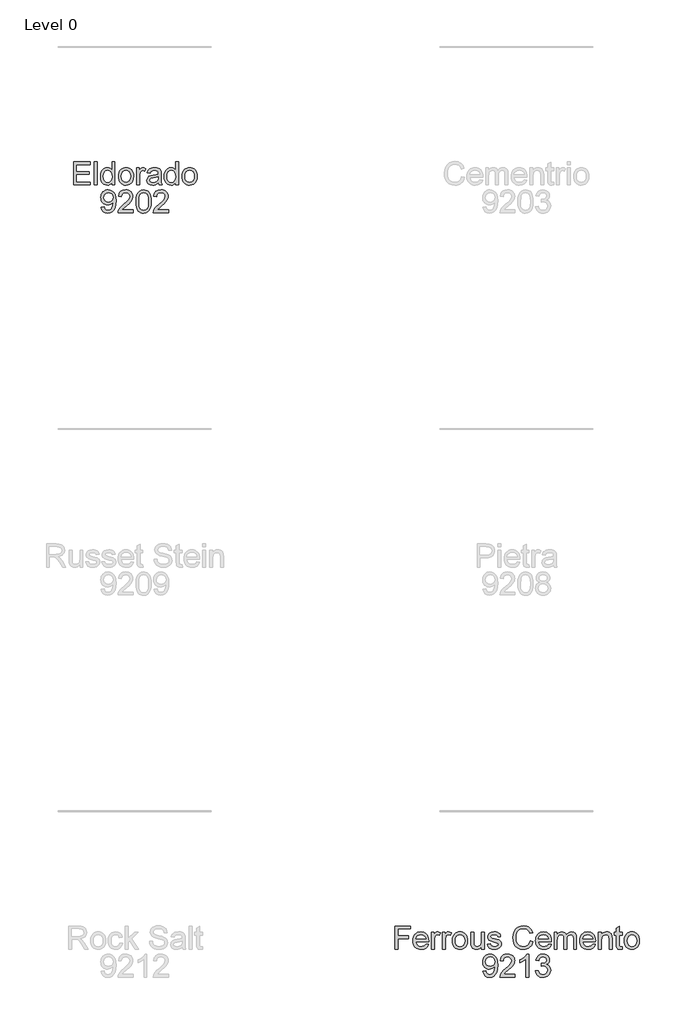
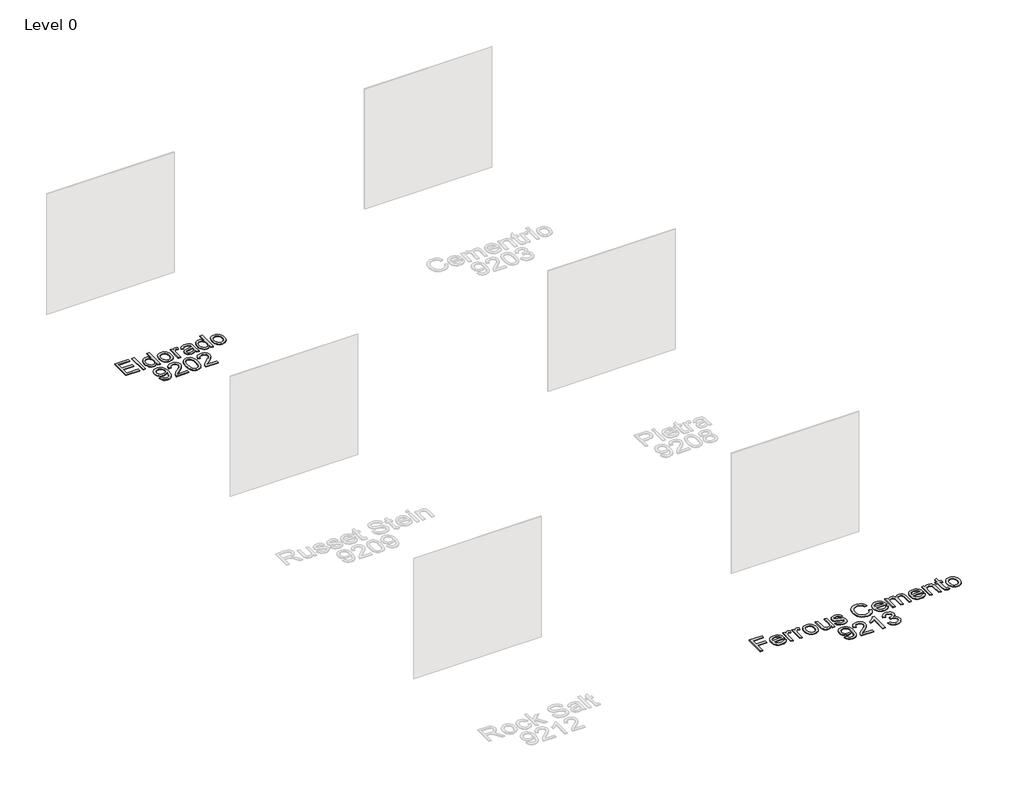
# One storey, part 4 of 8: 2 proxies.
"""IFC4 building model written with IfcOpenShell, lengths in millimetres."""

from ifc_helpers import new_model, si_unit, origin, origin_with_axes, place, context, project, spatial, polyline, outline, extrude, element, save

model = new_model("IFC4")

# Units and contexts
model_context = context("Model", 3, world=origin())
ifc_project = project(units=[si_unit("LENGTHUNIT", "METRE", prefix="MILLI")], contexts=[model_context])

# Site, building, storey
site = spatial("IfcSite", under=ifc_project)
building = spatial("IfcBuilding", under=site)
storey = spatial("IfcBuildingStorey", under=building, Name="Level 0", Elevation=0.0)

# Proxies
placement = place(None, origin())
element("IfcBuildingElementProxy", 1, Name="300mm Arial", ObjectType="300mm Arial", at=placement, inside=storey, context=model_context, shape_type="SweptSolid", body=[
    extrude(outline(polyline([(-5251.1692778, -7002.860494), (-5251.1692778, -6701.4915635), (-5034.5603591, -6701.4915635), (-5034.5603591, -6739.1626798), (-5213.4981615, -6739.1626798), (-5213.4981615, -6828.6315811), (-5043.9781381, -6828.6315811), (-5043.9781381, -6866.3026974), (-5213.4981615, -6866.3026974), (-5213.4981615, -6965.1893777), (-5029.8514695, -6965.1893777), (-5029.8514695, -7002.860494), (-5251.1692778, -7002.860494)])), origin_with_axes(), (0.0, 0.0, 1.0), 10.0),
    extrude(outline(polyline([(-4978.0536846, -7002.860494), (-4978.0536846, -6701.4915635), (-4940.3825683, -6701.4915635), (-4940.3825683, -7002.860494), (-4978.0536846, -7002.860494)])), origin_with_axes(), (0.0, 0.0, 1.0), 10.0),
    extrude(outline(polyline([(-4747.3180972, -7002.860494), (-4747.3180972, -6967.3230932), (-4758.5890818, -6984.9308452), (-4772.2421024, -6997.507811), (-4788.2771589, -7005.0539904), (-4806.6942512, -7007.5693835), (-4831.0480393, -7003.9273518), (-4853.3416882, -6993.0012565), (-4872.2140346, -6975.5544529), (-4886.303915, -6952.350296), (-4895.0779006, -6924.3268851), (-4898.0025624, -6892.422319), (-4895.3078268, -6860.9132261), (-4887.22362, -6832.4575538), (-4873.759139, -6808.6739828), (-4854.9235808, -6791.181194), (-4832.1424883, -6780.4206456), (-4806.841404, -6776.8337961), (-4788.4105161, -6779.3997731), (-4772.1133437, -6787.0977038), (-4758.2993748, -6798.8975188), (-4747.3180972, -6813.7691485), (-4747.3180972, -6701.4915635), (-4709.6469809, -6701.4915635), (-4709.6469809, -7002.860494), (-4747.3180972, -7002.860494)]), holes=[polyline([(-4860.3314461, -6892.2751662), (-4856.0824091, -6926.350236), (-4843.335298, -6950.5844625), (-4824.8124395, -6965.069816), (-4803.2361605, -6969.8982672), (-4781.6690785, -6965.2905452), (-4763.6152696, -6951.4673793), (-4751.3923903, -6928.1712519), (-4747.3180972, -6895.1446458), (-4751.4659667, -6859.037028), (-4763.9095752, -6834.0026582), (-4782.4232366, -6819.3793489), (-4804.7812649, -6814.5049125), (-4826.5782731, -6819.1862108), (-4844.4389439, -6833.230106), (-4856.3583206, -6857.3539678), (-4860.3314461, -6892.2751662)])]), origin_with_axes(), (0.0, 0.0, 1.0), 10.0),
    extrude(outline(polyline([(-4662.5580855, -6892.2015898), (-4660.520939, -6863.5389839), (-4654.4094993, -6838.8403064), (-4644.2237666, -6818.1055575), (-4629.9637408, -6801.334737), (-4615.6071459, -6790.6155754), (-4599.760629, -6782.9590314), (-4582.4241899, -6778.3651049), (-4563.5978288, -6776.8337961), (-4542.8147954, -6778.698498), (-4524.0229232, -6784.2926036), (-4507.2222123, -6793.6161129), (-4492.4126628, -6806.669026), (-4480.32544, -6823.0098843), (-4471.6917094, -6842.1972296), (-4466.511471, -6864.2310619), (-4464.7847249, -6889.1113811), (-4467.8381455, -6927.1687735), (-4476.9984072, -6956.1394806), (-4491.9987955, -6977.8353213), (-4512.5725961, -6994.0681143), (-4537.0091576, -7004.1940662), (-4563.5978288, -7007.5693835), (-4584.6843649, -7005.7115794), (-4603.6509811, -7000.1381672), (-4620.4976772, -6990.8491468), (-4635.2244533, -6977.8445183), (-4647.1829174, -6961.3450108), (-4655.7246775, -6941.5713536), (-4660.8497335, -6918.5235466), (-4662.5580855, -6892.2015898)]), holes=[polyline([(-4624.8869692, -6892.1280134), (-4620.5275676, -6926.2214773), (-4607.4493627, -6950.5108861), (-4587.7676759, -6965.0514219), (-4563.5978288, -6969.8982672), (-4539.5383463, -6965.0238308), (-4519.8934478, -6950.4005215), (-4506.8152429, -6925.789216), (-4502.4558412, -6890.950791), (-4506.842834, -6857.8506085), (-4520.0038124, -6833.8922936), (-4539.6763021, -6819.3517577), (-4563.5978288, -6814.5049125), (-4587.7676759, -6819.3333636), (-4607.4493627, -6833.8187172), (-4620.5275676, -6858.0529436), (-4624.8869692, -6892.1280134)])]), origin_with_axes(), (0.0, 0.0, 1.0), 10.0),
    extrude(outline(polyline([(-4422.4047191, -7002.860494), (-4422.4047191, -6781.5426857), (-4389.4424923, -6781.5426857), (-4389.4424923, -6814.2841833), (-4377.2655983, -6795.3014723), (-4366.0451974, -6784.1178596), (-4354.7880084, -6778.654812), (-4342.5007497, -6776.8337961), (-4323.738768, -6779.7400639), (-4304.6824806, -6788.4588672), (-4317.2640449, -6822.2304343), (-4330.5077967, -6816.4362929), (-4343.7515485, -6814.5049125), (-4354.9995405, -6816.3627165), (-4365.051916, -6821.9361288), (-4373.1729111, -6830.8020848), (-4378.6267617, -6842.5375205), (-4383.2068925, -6863.5803706), (-4384.7336028, -6886.5362071), (-4384.7336028, -7002.860494), (-4422.4047191, -7002.860494)])), origin_with_axes(), (0.0, 0.0, 1.0), 10.0),
    extrude(outline(polyline([(-4139.8713468, -6974.6071568), (-4157.8699734, -6990.0398064), (-4176.4020289, -7000.1381672), (-4195.8905776, -7005.7115794), (-4216.7586838, -7007.5693835), (-4248.2401855, -7003.0996173), (-4271.4627365, -6989.6903186), (-4285.7825431, -6969.3280501), (-4290.555812, -6943.9993748), (-4288.7531902, -6928.3827841), (-4283.3453249, -6914.2009331), (-4275.0036007, -6902.0608273), (-4264.3994021, -6892.5694718), (-4238.0222631, -6880.2086368), (-4205.4279183, -6874.5432541), (-4166.9106734, -6868.5835657), (-4140.092076, -6861.5938078), (-4139.8713468, -6853.2060983), (-4142.4649148, -6836.3938912), (-4150.245619, -6825.3942195), (-4167.6464374, -6817.2272392), (-4191.8898609, -6814.5049125), (-4214.3306626, -6816.3167313), (-4230.0024356, -6821.7521878), (-4240.6894076, -6831.8045633), (-4248.1758062, -6847.4671392), (-4285.8469225, -6842.7582497), (-4279.30782, -6822.156858), (-4269.5497501, -6805.9700502), (-4255.6622048, -6793.590821), (-4236.7346761, -6784.4121652), (-4213.5857016, -6778.7283884), (-4187.0338186, -6776.8337961), (-4161.5671874, -6778.5076592), (-4141.379663, -6783.5292485), (-4126.1585454, -6791.0800264), (-4115.5911351, -6800.3414556), (-4108.5829831, -6811.7917827), (-4104.0396405, -6825.9092543), (-4102.2002305, -6858.8714811), (-4102.2002305, -6905.7396473), (-4100.2872441, -6971.1858542), (-4092.7824514, -7002.860494), (-4130.4535677, -7002.860494), (-4139.8713468, -6974.6071568)]), holes=[polyline([(-4139.8713468, -6899.2649241), (-4200.6454524, -6910.8164188), (-4233.0558562, -6916.9232599), (-4247.7343478, -6926.8560738), (-4252.8846957, -6941.3506244), (-4250.0795955, -6952.5526311), (-4241.6642948, -6961.7312869), (-4227.8227348, -6967.8565221), (-4208.7388563, -6969.8982672), (-4188.5053465, -6967.64499), (-4170.6262816, -6960.8851583), (-4156.131731, -6950.9247533), (-4146.0517643, -6939.069756), (-4141.5819981, -6926.8560738), (-4140.092076, -6909.933502), (-4139.8713468, -6899.2649241)])]), origin_with_axes(), (0.0, 0.0, 1.0), 10.0),
    extrude(outline(polyline([(-3913.8446489, -7002.860494), (-3913.8446489, -6967.3230932), (-3925.1156336, -6984.9308452), (-3938.7686541, -6997.507811), (-3954.8037106, -7005.0539904), (-3973.220803, -7007.5693835), (-3997.574591, -7003.9273518), (-4019.86824, -6993.0012565), (-4038.7405863, -6975.5544529), (-4052.8304667, -6952.350296), (-4061.6044523, -6924.3268851), (-4064.5291142, -6892.422319), (-4061.8343786, -6860.9132261), (-4053.7501717, -6832.4575538), (-4040.2856907, -6808.6739828), (-4021.4501325, -6791.181194), (-3998.66904, -6780.4206456), (-3973.3679558, -6776.8337961), (-3954.9370678, -6779.3997731), (-3938.6398954, -6787.0977038), (-3924.8259265, -6798.8975188), (-3913.8446489, -6813.7691485), (-3913.8446489, -6701.4915635), (-3876.1735326, -6701.4915635), (-3876.1735326, -7002.860494), (-3913.8446489, -7002.860494)]), holes=[polyline([(-4026.8579979, -6892.2751662), (-4022.6089608, -6926.350236), (-4009.8618497, -6950.5844625), (-3991.3389912, -6965.069816), (-3969.7627122, -6969.8982672), (-3948.1956302, -6965.2905452), (-3930.1418213, -6951.4673793), (-3917.918942, -6928.1712519), (-3913.8446489, -6895.1446458), (-3917.9925184, -6859.037028), (-3930.4361269, -6834.0026582), (-3948.9497883, -6819.3793489), (-3971.3078166, -6814.5049125), (-3993.1048248, -6819.1862108), (-4010.9654957, -6833.230106), (-4022.8848723, -6857.3539678), (-4026.8579979, -6892.2751662)])]), origin_with_axes(), (0.0, 0.0, 1.0), 10.0),
    extrude(outline(polyline([(-3829.0846373, -6892.2015898), (-3827.0474907, -6863.5389839), (-3820.9360511, -6838.8403064), (-3810.7503183, -6818.1055575), (-3796.4902925, -6801.334737), (-3782.1336976, -6790.6155754), (-3766.2871807, -6782.9590314), (-3748.9507417, -6778.3651049), (-3730.1243806, -6776.8337961), (-3709.3413471, -6778.698498), (-3690.5494749, -6784.2926036), (-3673.7487641, -6793.6161129), (-3658.9392145, -6806.669026), (-3646.8519917, -6823.0098843), (-3638.2182611, -6842.1972296), (-3633.0380228, -6864.2310619), (-3631.3112766, -6889.1113811), (-3634.3646972, -6927.1687735), (-3643.5249589, -6956.1394806), (-3658.5253472, -6977.8353213), (-3679.0991478, -6994.0681143), (-3703.5357094, -7004.1940662), (-3730.1243806, -7007.5693835), (-3751.2109167, -7005.7115794), (-3770.1775328, -7000.1381672), (-3787.0242289, -6990.8491468), (-3801.751005, -6977.8445183), (-3813.7094691, -6961.3450108), (-3822.2512292, -6941.5713536), (-3827.3762852, -6918.5235466), (-3829.0846373, -6892.2015898)]), holes=[polyline([(-3791.413521, -6892.1280134), (-3787.0541193, -6926.2214773), (-3773.9759144, -6950.5108861), (-3754.2942276, -6965.0514219), (-3730.1243806, -6969.8982672), (-3706.0648981, -6965.0238308), (-3686.4199995, -6950.4005215), (-3673.3417946, -6925.789216), (-3668.982393, -6890.950791), (-3673.3693857, -6857.8506085), (-3686.5303641, -6833.8922936), (-3706.2028538, -6819.3517577), (-3730.1243806, -6814.5049125), (-3754.2942276, -6819.3333636), (-3773.9759144, -6833.8187172), (-3787.0541193, -6858.0529436), (-3791.413521, -6892.1280134)])]), origin_with_axes(), (0.0, 0.0, 1.0), 10.0),
    extrude(outline(polyline([(-4888.5847834, -7293.4427149), (-4850.9136671, -7288.7338254), (-4844.4757321, -7310.1169663), (-4833.9910953, -7324.6758963), (-4819.7172739, -7333.0360146), (-4801.9117853, -7335.8227207), (-4785.9365097, -7334.029296), (-4771.4143679, -7328.6490218), (-4759.3478385, -7320.2705094), (-4750.7393998, -7309.4823699), (-4738.4153529, -7276.7408723), (-4732.9706994, -7233.0364913), (-4733.1914286, -7225.6788514), (-4746.2420424, -7241.6081418), (-4763.320964, -7254.2264942), (-4783.1957888, -7262.4486568), (-4804.6341121, -7265.1893777), (-4822.5292719, -7263.5155146), (-4838.9850934, -7258.4939254), (-4854.0015766, -7250.12461), (-4867.5787214, -7238.4075684), (-4878.8290127, -7223.9544045), (-4886.864935, -7207.3767221), (-4891.6864884, -7188.6745212), (-4893.2936729, -7167.8478018), (-4891.6083135, -7146.326705), (-4886.5522353, -7127.0129003), (-4878.1254384, -7109.9063875), (-4866.3279227, -7095.0071667), (-4851.9920212, -7082.9360387), (-4835.9500669, -7074.3138045), (-4818.2020599, -7069.1404639), (-4798.7480001, -7067.4160171), (-4770.6510128, -7071.3523544), (-4745.074017, -7083.1613665), (-4723.681679, -7102.254442), (-4708.1386647, -7128.0429699), (-4698.6749004, -7163.6907352), (-4695.5203123, -7212.3615232), (-4698.6657034, -7263.96617), (-4708.1018765, -7303.8537754), (-4723.7460584, -7333.8269609), (-4745.5154754, -7355.6883485), (-4772.4720286, -7369.0424649), (-4803.6776189, -7373.4938371), (-4835.8856876, -7368.2423216), (-4861.5822449, -7352.4877751), (-4879.5532804, -7327.2234791), (-4888.5847834, -7293.4427149)]), holes=[polyline([(-4733.1914286, -7166.964885), (-4737.2565246, -7141.4338745), (-4749.4518128, -7121.788976), (-4768.3793414, -7109.262594), (-4792.641159, -7105.0871334), (-4817.8042875, -7109.5844908), (-4837.9642208, -7123.0765629), (-4851.2079727, -7143.7239399), (-4855.6225566, -7169.6872117), (-4851.447096, -7192.964945), (-4838.920714, -7211.4418182), (-4819.2574214, -7223.4991506), (-4793.6712286, -7227.5182614), (-4769.6025491, -7223.4991506), (-4750.224365, -7211.4418182), (-4737.4496627, -7192.2843633), (-4733.1914286, -7166.964885)])]), origin_with_axes(), (0.0, 0.0, 1.0), 10.0),
    extrude(outline(polyline([(-4469.4936145, -7331.1138312), (-4469.4936145, -7368.7849475), (-4667.2669751, -7368.7849475), (-4663.2202731, -7342.8124787), (-4653.9312527, -7322.5145896), (-4640.338013, -7302.8237058), (-4620.6747204, -7282.213117), (-4593.1755412, -7259.156113), (-4552.5245808, -7223.0484951), (-4528.1340045, -7196.3954446), (-4515.9387164, -7174.7639833), (-4511.8736203, -7153.7211331), (-4515.7087901, -7134.8579838), (-4527.2142995, -7119.1770138), (-4544.9002264, -7108.6096035), (-4567.2766488, -7105.0871334), (-4590.7751112, -7108.52683), (-4609.0312552, -7118.84592), (-4620.8126761, -7135.2350629), (-4624.8869692, -7156.8849183), (-4662.5580855, -7152.1760288), (-4653.425415, -7115.7373171), (-4644.8790564, -7101.2013798), (-4633.6793489, -7089.1210548), (-4620.0838099, -7079.6251008), (-4604.3499568, -7072.8422765), (-4566.4673084, -7067.4160171), (-4546.2774846, -7068.9243332), (-4528.3087484, -7073.4492818), (-4512.5610998, -7080.9908627), (-4499.0345387, -7091.549076), (-4488.1705235, -7104.3421723), (-4480.4105127, -7118.5884026), (-4475.7545062, -7134.2877667), (-4474.202504, -7151.4402648), (-4475.8763671, -7169.4572855), (-4480.8979563, -7187.1616065), (-4489.8098976, -7205.1694302), (-4503.154817, -7224.0969588), (-4524.4275934, -7246.6941104), (-4557.1231057, -7275.7108027), (-4600.4596047, -7311.9471793), (-4617.4557529, -7331.1138312), (-4469.4936145, -7331.1138312)])), origin_with_axes(), (0.0, 0.0, 1.0), 10.0),
    extrude(outline(polyline([(-4431.8224982, -7220.5285035), (-4429.0541861, -7172.2899768), (-4420.7492501, -7133.8187172), (-4406.9904635, -7104.5261133), (-4387.8605997, -7083.8235541), (-4363.2217031, -7071.5179013), (-4332.9358179, -7067.4160171), (-4309.722464, -7069.8440382), (-4288.9371312, -7077.1281017), (-4271.554707, -7088.983099), (-4258.5500784, -7105.1239216), (-4248.7276292, -7125.4126136), (-4240.8917427, -7149.7112194), (-4235.7597888, -7180.5673217), (-4234.0491375, -7220.5285035), (-4236.7898584, -7268.4911186), (-4245.012021, -7306.8704077), (-4258.6880342, -7336.1906027), (-4277.7903068, -7356.9759355), (-4302.4843857, -7369.3643617), (-4332.9358179, -7373.4938371), (-4353.6843624, -7371.7004123), (-4372.0784621, -7366.3201381), (-4388.1181171, -7357.3530145), (-4401.8033273, -7344.7990414), (-4414.9367146, -7322.1053209), (-4424.3177055, -7293.828991), (-4429.9463, -7259.9700519), (-4431.8224982, -7220.5285035)]), holes=[polyline([(-4394.1513818, -7220.4549271), (-4389.7367979, -7279.7115194), (-4384.218568, -7299.9795181), (-4376.4930461, -7314.0073184), (-4356.7745711, -7330.3688702), (-4332.9358179, -7335.8227207), (-4309.0970646, -7330.3504761), (-4289.3785896, -7313.933742), (-4281.6530677, -7299.8829491), (-4276.1348378, -7279.6195489), (-4271.7202539, -7220.4549271), (-4275.987685, -7162.5319069), (-4281.3219739, -7142.3305869), (-4288.7899784, -7127.9693935), (-4308.4716652, -7110.8076984), (-4333.3772762, -7105.0871334), (-4356.9585121, -7110.1271167), (-4375.9044349, -7125.2470667), (-4383.8874742, -7140.8820515), (-4389.5896451, -7161.9616898), (-4394.1513818, -7220.4549271)])]), origin_with_axes(), (0.0, 0.0, 1.0), 10.0),
    extrude(outline(polyline([(-4008.0224397, -7331.1138312), (-4008.0224397, -7368.7849475), (-4205.7958003, -7368.7849475), (-4201.7490984, -7342.8124787), (-4192.460078, -7322.5145896), (-4178.8668383, -7302.8237058), (-4159.2035456, -7282.213117), (-4131.7043665, -7259.156113), (-4091.053406, -7223.0484951), (-4066.6628297, -7196.3954446), (-4054.4675416, -7174.7639833), (-4050.4024456, -7153.7211331), (-4054.2376154, -7134.8579838), (-4065.7431248, -7119.1770138), (-4083.4290517, -7108.6096035), (-4105.805474, -7105.0871334), (-4129.3039365, -7108.52683), (-4147.5600805, -7118.84592), (-4159.3415014, -7135.2350629), (-4163.4157945, -7156.8849183), (-4201.0869108, -7152.1760288), (-4191.9542402, -7115.7373171), (-4183.4078816, -7101.2013798), (-4172.2081742, -7089.1210548), (-4158.6126352, -7079.6251008), (-4142.8787821, -7072.8422765), (-4104.9961336, -7067.4160171), (-4084.8063099, -7068.9243332), (-4066.8375737, -7073.4492818), (-4051.089925, -7080.9908627), (-4037.5633639, -7091.549076), (-4026.6993488, -7104.3421723), (-4018.9393379, -7118.5884026), (-4014.2833314, -7134.2877667), (-4012.7313292, -7151.4402648), (-4014.4051923, -7169.4572855), (-4019.4267816, -7187.1616065), (-4028.3387229, -7205.1694302), (-4041.6836423, -7224.0969588), (-4062.9564186, -7246.6941104), (-4095.651931, -7275.7108027), (-4138.98843, -7311.9471793), (-4155.9845782, -7331.1138312), (-4008.0224397, -7331.1138312)])), origin_with_axes(), (0.0, 0.0, 1.0), 10.0),
])
element("IfcBuildingElementProxy", 2, Name="300mm Arial", ObjectType="300mm Arial", at=placement, inside=storey, context=model_context, shape_type="SweptSolid", body=[
    extrude(outline(polyline([(-1042.2627202, -17002.860494), (-1042.2627202, -16701.4915635), (-839.7804701, -16701.4915635), (-839.7804701, -16739.1626798), (-1004.5916039, -16739.1626798), (-1004.5916039, -16828.6315811), (-863.3249178, -16828.6315811), (-863.3249178, -16866.3026974), (-1004.5916039, -16866.3026974), (-1004.5916039, -17002.860494), (-1042.2627202, -17002.860494)])), origin_with_axes(), (0.0, 0.0, 1.0), 10.0),
    extrude(outline(polyline([(-637.7396783, -16936.9360404), (-600.804326, -16941.64493), (-614.1124572, -16969.4752029), (-635.3484454, -16990.2789297), (-664.0340439, -17003.2467701), (-699.6910063, -17007.5693835), (-723.0653086, -17005.7046817), (-743.8920281, -17000.1105761), (-762.1711647, -16990.7870668), (-777.9027185, -16977.7341537), (-790.5532606, -16961.3151204), (-799.5893621, -16941.8932503), (-805.011023, -16919.4685435), (-806.8182433, -16894.0409998), (-804.9926289, -16867.7512327), (-799.5157857, -16844.5792656), (-790.3877137, -16824.5250983), (-777.6084129, -16807.5887309), (-761.9182458, -16794.133447), (-744.0575749, -16784.5225298), (-724.0264003, -16778.7559796), (-701.8247219, -16776.8337961), (-680.3381141, -16778.751381), (-660.907047, -16784.5041357), (-643.5315205, -16794.0920602), (-628.2115347, -16807.5151545), (-615.7058461, -16824.4147337), (-606.7732114, -16844.4321128), (-601.4136306, -16867.5672917), (-599.6271036, -16893.8202706), (-599.8478328, -16903.9738137), (-769.147127, -16903.9738137), (-762.6264187, -16932.1719686), (-747.4788775, -16952.902119), (-725.6174899, -16965.6492302), (-698.9552423, -16969.8982672), (-678.9056736, -16967.9300985), (-662.01989, -16962.0255925), (-648.2978916, -16951.8168672), (-637.7396783, -16936.9360404)]), holes=[polyline([(-769.147127, -16866.3026974), (-637.2982199, -16866.3026974), (-642.3933856, -16846.4002814), (-652.3813818, -16832.1632482), (-674.3439369, -16818.9194964), (-701.9718747, -16814.5049125), (-727.3649294, -16818.0273826), (-748.3617943, -16828.5947929), (-762.9575125, -16845.0667092), (-769.147127, -16866.3026974)])]), origin_with_axes(), (0.0, 0.0, 1.0), 10.0),
    extrude(outline(polyline([(-561.9559873, -17002.860494), (-561.9559873, -16781.5426857), (-528.9937606, -16781.5426857), (-528.9937606, -16814.2841833), (-516.8168665, -16795.3014723), (-505.5964657, -16784.1178596), (-494.3392766, -16778.654812), (-482.052018, -16776.8337961), (-463.2900362, -16779.7400639), (-444.2337489, -16788.4588672), (-456.8153131, -16822.2304343), (-470.0590649, -16816.4362929), (-483.3028168, -16814.5049125), (-494.5508088, -16816.3627165), (-504.6031843, -16821.9361288), (-512.7241793, -16830.8020848), (-518.1780299, -16842.5375205), (-522.7581608, -16863.5803706), (-524.284871, -16886.5362071), (-524.284871, -17002.860494), (-561.9559873, -17002.860494)])), origin_with_axes(), (0.0, 0.0, 1.0), 10.0),
    extrude(outline(polyline([(-420.6893012, -17002.860494), (-420.6893012, -16781.5426857), (-387.7270744, -16781.5426857), (-387.7270744, -16814.2841833), (-375.5501804, -16795.3014723), (-364.3297795, -16784.1178596), (-353.0725905, -16778.654812), (-340.7853318, -16776.8337961), (-322.0233501, -16779.7400639), (-302.9670627, -16788.4588672), (-315.548627, -16822.2304343), (-328.7923788, -16816.4362929), (-342.0361306, -16814.5049125), (-353.2841226, -16816.3627165), (-363.3364981, -16821.9361288), (-371.4574932, -16830.8020848), (-376.9113438, -16842.5375205), (-381.4914746, -16863.5803706), (-383.0181849, -16886.5362071), (-383.0181849, -17002.860494), (-420.6893012, -17002.860494)])), origin_with_axes(), (0.0, 0.0, 1.0), 10.0),
    extrude(outline(polyline([(-288.8403941, -16892.2015898), (-286.8032476, -16863.5389839), (-280.6918079, -16838.8403064), (-270.5060752, -16818.1055575), (-256.2460493, -16801.334737), (-241.8894545, -16790.6155754), (-226.0429375, -16782.9590314), (-208.7064985, -16778.3651049), (-189.8801374, -16776.8337961), (-169.097104, -16778.698498), (-150.3052318, -16784.2926036), (-133.5045209, -16793.6161129), (-118.6949713, -16806.669026), (-106.6077485, -16823.0098843), (-97.974018, -16842.1972296), (-92.7937796, -16864.2310619), (-91.0670335, -16889.1113811), (-94.1204541, -16927.1687735), (-103.2807158, -16956.1394806), (-118.2811041, -16977.8353213), (-138.8549047, -16994.0681143), (-163.2914662, -17004.1940662), (-189.8801374, -17007.5693835), (-210.9666735, -17005.7115794), (-229.9332896, -17000.1381672), (-246.7799858, -16990.8491468), (-261.5067619, -16977.8445183), (-273.465226, -16961.3450108), (-282.0069861, -16941.5713536), (-287.1320421, -16918.5235466), (-288.8403941, -16892.2015898)]), holes=[polyline([(-251.1692778, -16892.1280134), (-246.8098762, -16926.2214773), (-233.7316712, -16950.5108861), (-214.0499845, -16965.0514219), (-189.8801374, -16969.8982672), (-165.8206549, -16965.0238308), (-146.1757564, -16950.4005215), (-133.0975515, -16925.789216), (-128.7381498, -16890.950791), (-133.1251426, -16857.8506085), (-146.286121, -16833.8922936), (-165.9586107, -16819.3517577), (-189.8801374, -16814.5049125), (-214.0499845, -16819.3333636), (-233.7316712, -16833.8187172), (-246.8098762, -16858.0529436), (-251.1692778, -16892.1280134)])]), origin_with_axes(), (0.0, 0.0, 1.0), 10.0),
    extrude(outline(polyline([(92.5796585, -17002.860494), (92.5796585, -16964.8214957), (78.9496306, -16983.5236966), (63.0755225, -16996.8824116), (44.9573342, -17004.8976405), (24.5950658, -17007.5693835), (6.2469513, -17005.6931853), (-10.8319704, -17000.0645908), (-25.1609741, -16991.6033049), (-35.2593348, -16981.2290327), (-46.4797357, -16953.4907302), (-48.6870277, -16918.4683643), (-48.6870277, -16781.5426857), (-11.0159114, -16781.5426857), (-11.0159114, -16900.7364521), (-8.735043, -16939.1433324), (-3.2444042, -16951.9548229), (6.1641778, -16961.6944987), (18.8653037, -16967.8473251), (34.233574, -16969.8982672), (50.4847612, -16967.8013398), (65.6874846, -16961.5105577), (78.2230636, -16951.605335), (86.4728174, -16938.6650858), (91.0529482, -16920.9423707), (92.5796585, -16896.6897502), (92.5796585, -16781.5426857), (130.2507748, -16781.5426857), (130.2507748, -17002.860494), (92.5796585, -17002.860494)])), origin_with_axes(), (0.0, 0.0, 1.0), 10.0),
    extrude(outline(polyline([(167.9218911, -16936.9360404), (205.5930074, -16932.2271509), (211.5343016, -16948.3403823), (223.030614, -16960.1861825), (240.1555208, -16967.470246), (262.9825986, -16969.8982672), (285.533765, -16967.6725811), (301.3894789, -16960.9955229), (310.7704698, -16951.3202265), (313.8974668, -16940.0998256), (310.7520757, -16930.4981055), (301.3159025, -16923.1772538), (262.5411403, -16912.4350996), (205.8137366, -16894.0042116), (191.4571417, -16884.7427824), (181.0552783, -16872.4831149), (174.7369051, -16858.0069584), (172.6307806, -16842.0960621), (174.3230378, -16827.5003439), (179.3998093, -16814.0266659), (187.4012427, -16802.2084568), (197.8674855, -16792.5791455), (221.8166034, -16781.4323211), (254.2270072, -16776.8337961), (278.7463421, -16778.6824032), (300.0651038, -16784.2282242), (317.2084047, -16792.9286334), (329.2013578, -16804.2410048), (337.1476089, -16819.0022698), (342.150804, -16838.0493601), (304.4796877, -16842.7582497), (299.7248129, -16830.9032524), (290.3162309, -16821.972917), (276.1619711, -16816.3719136), (257.1700631, -16814.5049125), (235.5386018, -16816.2891401), (221.1176276, -16821.6418232), (213.0058296, -16829.3673451), (210.3018969, -16838.2700893), (214.7900573, -16849.2329728), (228.8431495, -16857.5471059), (261.2903415, -16865.5669334), (316.5830053, -16883.2988455), (331.1879206, -16891.7785255), (342.2611686, -16903.3852025), (349.2417295, -16918.1556646), (351.5685831, -16936.1267001), (348.8370593, -16954.7047408), (340.6424878, -16972.1791356), (327.2975685, -16987.1795239), (309.1150008, -16998.3355454), (287.1524457, -17005.260924), (262.4675639, -17007.5693835), (224.4837479, -17003.1180114), (196.7638395, -16989.763895), (178.2593752, -16967.654187), (167.9218911, -16936.9360404)])), origin_with_axes(), (0.0, 0.0, 1.0), 10.0),
    extrude(outline(polyline([(728.2797461, -16895.733257), (765.9508625, -16905.4453417), (758.4966535, -16928.872527), (748.5684382, -16949.3428607), (736.1662164, -16966.856343), (721.2899882, -16981.4129737), (704.275446, -16992.856403), (685.4582819, -17001.0302811), (664.8384961, -17005.9346079), (642.4160885, -17007.5693835), (598.7209045, -17002.6213707), (564.0204353, -16987.7773322), (537.422567, -16963.5523028), (518.0351859, -16930.4613173), (506.1985827, -16891.5577963), (502.2530483, -16849.8951604), (506.7136175, -16805.9516561), (520.0953251, -16768.0046283), (541.6991952, -16737.2588905), (570.8262522, -16714.9192564), (605.3703716, -16701.3168196), (643.2254289, -16696.782674), (684.5293799, -16702.6503918), (702.4981161, -16709.9850391), (718.6780261, -16720.2535453), (732.8023954, -16733.1845974), (744.6045097, -16748.5068825), (761.2419729, -16786.3251516), (723.5708566, -16795.3014723), (710.5110458, -16767.8298843), (692.668769, -16748.9851291), (669.8232971, -16738.086625), (641.7539009, -16734.4537903), (609.3986794, -16738.4820981), (582.8192053, -16750.5670217), (562.6500749, -16769.439368), (549.5258847, -16793.8299443), (542.3245946, -16821.4026999), (539.9241646, -16849.821584), (542.766053, -16884.6232207), (551.2917183, -16914.7159679), (565.8230571, -16938.9501944), (586.6819662, -16956.1762688), (611.6887448, -16966.4677676), (638.6636921, -16969.8982672), (670.1084057, -16965.2261659), (696.3108008, -16951.2098619), (716.0936551, -16927.996508), (728.2797461, -16895.733257)])), origin_with_axes(), (0.0, 0.0, 1.0), 10.0),
    extrude(outline(polyline([(967.9916542, -16936.9360404), (1004.9270065, -16941.64493), (991.6188753, -16969.4752029), (970.3828872, -16990.2789297), (941.6972886, -17003.2467701), (906.0403262, -17007.5693835), (882.6660239, -17005.7046817), (861.8393045, -17000.1105761), (843.5601679, -16990.7870668), (827.828614, -16977.7341537), (815.1780719, -16961.3151204), (806.1419704, -16941.8932503), (800.7203095, -16919.4685435), (798.9130892, -16894.0409998), (800.7387036, -16867.7512327), (806.2155468, -16844.5792656), (815.3436188, -16824.5250983), (828.1229196, -16807.5887309), (843.8130867, -16794.133447), (861.6737576, -16784.5225298), (881.7049322, -16778.7559796), (903.9066106, -16776.8337961), (925.3932184, -16778.751381), (944.8242856, -16784.5041357), (962.199812, -16794.0920602), (977.5197979, -16807.5151545), (990.0254865, -16824.4147337), (998.9581211, -16844.4321128), (1004.317702, -16867.5672917), (1006.1042289, -16893.8202706), (1005.8834997, -16903.9738137), (836.5842055, -16903.9738137), (843.1049139, -16932.1719686), (858.252455, -16952.902119), (880.1138426, -16965.6492302), (906.7760902, -16969.8982672), (926.8256589, -16967.9300985), (943.7114425, -16962.0255925), (957.4334409, -16951.8168672), (967.9916542, -16936.9360404)]), holes=[polyline([(836.5842055, -16866.3026974), (968.4331126, -16866.3026974), (963.337947, -16846.4002814), (953.3499508, -16832.1632482), (931.3873957, -16818.9194964), (903.7594578, -16814.5049125), (878.3664031, -16818.0273826), (857.3695383, -16828.5947929), (842.7738201, -16845.0667092), (836.5842055, -16866.3026974)])]), origin_with_axes(), (0.0, 0.0, 1.0), 10.0),
    extrude(outline(polyline([(1043.7753452, -17002.860494), (1043.7753452, -16781.5426857), (1081.4464615, -16781.5426857), (1081.4464615, -16817.9630032), (1092.777227, -16801.2335695), (1107.345354, -16788.1277734), (1124.6542018, -16779.6572905), (1144.2071299, -16776.8337961), (1165.1580095, -16779.7124728), (1181.9518226, -16788.3485026), (1194.4965986, -16802.1716686), (1202.7003671, -16820.6117536), (1216.4315626, -16801.4588972), (1232.0941385, -16787.7782855), (1249.688095, -16779.5699185), (1269.2134319, -16776.8337961), (1297.5311484, -16781.3863358), (1318.472831, -16795.0439549), (1331.4130802, -16818.1745354), (1335.7264966, -16851.1459592), (1335.7264966, -17002.860494), (1298.0553803, -17002.860494), (1298.0553803, -16867.332767), (1294.5605013, -16835.8788564), (1289.6492767, -16827.2060383), (1281.9053607, -16820.3910244), (1271.9449557, -16815.9764404), (1260.384264, -16814.5049125), (1239.9760103, -16818.2757029), (1223.3385471, -16829.5880743), (1212.2744961, -16849.2145787), (1208.586479, -16877.9277684), (1208.586479, -17002.860494), (1170.9153627, -17002.860494), (1170.9153627, -16863.1389122), (1168.7356619, -16841.8385447), (1162.1965595, -16826.6450183), (1150.6910501, -16817.5399389), (1133.6121284, -16814.5049125), (1119.0991837, -16816.5282634), (1105.7266732, -16822.5983163), (1094.6902133, -16832.5679184), (1087.1854206, -16846.2899168), (1082.8812013, -16865.3278101), (1081.4464615, -16891.2450966), (1081.4464615, -17002.860494), (1043.7753452, -17002.860494)])), origin_with_axes(), (0.0, 0.0, 1.0), 10.0),
    extrude(outline(polyline([(1547.1850674, -16936.9360404), (1584.1204197, -16941.64493), (1570.8122886, -16969.4752029), (1549.5763004, -16990.2789297), (1520.8907018, -17003.2467701), (1485.2337394, -17007.5693835), (1461.8594372, -17005.7046817), (1441.0327177, -17000.1105761), (1422.7535811, -16990.7870668), (1407.0220272, -16977.7341537), (1394.3714851, -16961.3151204), (1385.3353836, -16941.8932503), (1379.9137227, -16919.4685435), (1378.1065024, -16894.0409998), (1379.9321168, -16867.7512327), (1385.40896, -16844.5792656), (1394.537032, -16824.5250983), (1407.3163328, -16807.5887309), (1423.0064999, -16794.133447), (1440.8671708, -16784.5225298), (1460.8983454, -16778.7559796), (1483.1000239, -16776.8337961), (1504.5866316, -16778.751381), (1524.0176988, -16784.5041357), (1541.3932252, -16794.0920602), (1556.7132111, -16807.5151545), (1569.2188997, -16824.4147337), (1578.1515344, -16844.4321128), (1583.5111152, -16867.5672917), (1585.2976421, -16893.8202706), (1585.0769129, -16903.9738137), (1415.7776187, -16903.9738137), (1422.2983271, -16932.1719686), (1437.4458682, -16952.902119), (1459.3072558, -16965.6492302), (1485.9695034, -16969.8982672), (1506.0190721, -16967.9300985), (1522.9048557, -16962.0255925), (1536.6268541, -16951.8168672), (1547.1850674, -16936.9360404)]), holes=[polyline([(1415.7776187, -16866.3026974), (1547.6265258, -16866.3026974), (1542.5313602, -16846.4002814), (1532.543364, -16832.1632482), (1510.5808089, -16818.9194964), (1482.9528711, -16814.5049125), (1457.5598163, -16818.0273826), (1436.5629515, -16828.5947929), (1421.9672333, -16845.0667092), (1415.7776187, -16866.3026974)])]), origin_with_axes(), (0.0, 0.0, 1.0), 10.0),
    extrude(outline(polyline([(1622.9687584, -17002.860494), (1622.9687584, -16781.5426857), (1660.6398747, -16781.5426857), (1660.6398747, -16812.4447733), (1673.7272767, -16796.8649708), (1689.4450349, -16785.7365404), (1707.7931495, -16779.0594822), (1728.7716202, -16776.8337961), (1747.3404639, -16778.6272209), (1764.3458092, -16784.0074951), (1778.5276601, -16792.303234), (1788.6260208, -16802.8430532), (1799.9199981, -16830.5445674), (1801.9065609, -16866.964885), (1801.9065609, -17002.860494), (1764.2354446, -17002.860494), (1764.2354446, -16872.0416565), (1759.894437, -16838.7115477), (1753.8887635, -16828.7879309), (1744.5537578, -16821.0900002), (1732.5883959, -16816.1511844), (1718.6916536, -16814.5049125), (1696.6279309, -16818.2021265), (1677.8199639, -16829.2937687), (1670.3036749, -16838.3482643), (1664.934897, -16850.7228949), (1660.6398747, -16885.4325611), (1660.6398747, -17002.860494), (1622.9687584, -17002.860494)])), origin_with_axes(), (0.0, 0.0, 1.0), 10.0),
    extrude(outline(polyline([(1933.7554679, -16971.4433716), (1938.4643575, -17003.96414), (1910.2845966, -17007.5693835), (1892.2031966, -17006.005885), (1878.7203215, -17001.3153896), (1869.1921778, -16994.0865084), (1862.9749721, -16984.9078526), (1859.5536695, -16969.1441091), (1858.4132353, -16942.1599648), (1858.4132353, -16819.213802), (1830.1598981, -16819.213802), (1830.1598981, -16781.5426857), (1858.4132353, -16781.5426857), (1858.4132353, -16727.758338), (1896.0843516, -16705.6118419), (1896.0843516, -16781.5426857), (1933.7554679, -16781.5426857), (1933.7554679, -16819.213802), (1896.0843516, -16819.213802), (1896.0843516, -16941.0563188), (1898.0709144, -16960.4804881), (1904.5088493, -16967.3598814), (1917.347931, -16969.8982672), (1933.7554679, -16971.4433716)])), origin_with_axes(), (0.0, 0.0, 1.0), 10.0),
    extrude(outline(polyline([(1962.0088052, -16892.2015898), (1964.0459517, -16863.5389839), (1970.1573914, -16838.8403064), (1980.3431241, -16818.1055575), (1994.6031499, -16801.334737), (2008.9597448, -16790.6155754), (2024.8062617, -16782.9590314), (2042.1427008, -16778.3651049), (2060.9690619, -16776.8337961), (2081.7520953, -16778.698498), (2100.5439675, -16784.2926036), (2117.3446784, -16793.6161129), (2132.1542279, -16806.669026), (2144.2414507, -16823.0098843), (2152.8751813, -16842.1972296), (2158.0554197, -16864.2310619), (2159.7821658, -16889.1113811), (2156.7287452, -16927.1687735), (2147.5684835, -16956.1394806), (2132.5680952, -16977.8353213), (2111.9942946, -16994.0681143), (2087.5577331, -17004.1940662), (2060.9690619, -17007.5693835), (2039.8825258, -17005.7115794), (2020.9159096, -17000.1381672), (2004.0692135, -16990.8491468), (1989.3424374, -16977.8445183), (1977.3839733, -16961.3450108), (1968.8422132, -16941.5713536), (1963.7171572, -16918.5235466), (1962.0088052, -16892.2015898)]), holes=[polyline([(1999.6799215, -16892.1280134), (2004.0393231, -16926.2214773), (2017.117528, -16950.5108861), (2036.7992148, -16965.0514219), (2060.9690619, -16969.8982672), (2085.0285444, -16965.0238308), (2104.6734429, -16950.4005215), (2117.7516478, -16925.789216), (2122.1110495, -16890.950791), (2117.7240567, -16857.8506085), (2104.5630783, -16833.8922936), (2084.8905886, -16819.3517577), (2060.9690619, -16814.5049125), (2036.7992148, -16819.3333636), (2017.117528, -16833.8187172), (2004.0393231, -16858.0529436), (1999.6799215, -16892.1280134)])]), origin_with_axes(), (0.0, 0.0, 1.0), 10.0),
    extrude(outline(polyline([(111.4152166, -17293.4427149), (149.0863329, -17288.7338254), (155.5242679, -17310.1169663), (166.0089047, -17324.6758963), (180.2827261, -17333.0360146), (198.0882147, -17335.8227207), (214.0634903, -17334.029296), (228.5856321, -17328.6490218), (240.6521615, -17320.2705094), (249.2606002, -17309.4823699), (261.5846471, -17276.7408723), (267.0293006, -17233.0364913), (266.8085714, -17225.6788514), (253.7579576, -17241.6081418), (236.679036, -17254.2264942), (216.8042112, -17262.4486568), (195.3658879, -17265.1893777), (177.4707281, -17263.5155146), (161.0149066, -17258.4939254), (145.9984234, -17250.12461), (132.4212786, -17238.4075684), (121.1709873, -17223.9544045), (113.135065, -17207.3767221), (108.3135116, -17188.6745212), (106.7063271, -17167.8478018), (108.3916865, -17146.326705), (113.4477647, -17127.0129003), (121.8745616, -17109.9063875), (133.6720773, -17095.0071667), (148.0079788, -17082.9360387), (164.0499331, -17074.3138045), (181.7979401, -17069.1404639), (201.2519999, -17067.4160171), (229.3489872, -17071.3523544), (254.925983, -17083.1613665), (276.318321, -17102.254442), (291.8613353, -17128.0429699), (301.3250996, -17163.6907352), (304.4796877, -17212.3615232), (301.3342966, -17263.96617), (291.8981235, -17303.8537754), (276.2539416, -17333.8269609), (254.4845246, -17355.6883485), (227.5279714, -17369.0424649), (196.3223811, -17373.4938371), (164.1143124, -17368.2423216), (138.4177551, -17352.4877751), (120.4467196, -17327.2234791), (111.4152166, -17293.4427149)]), holes=[polyline([(266.8085714, -17166.964885), (262.7434754, -17141.4338745), (250.5481872, -17121.788976), (231.6206586, -17109.262594), (207.358841, -17105.0871334), (182.1957125, -17109.5844908), (162.0357792, -17123.0765629), (148.7920273, -17143.7239399), (144.3774434, -17169.6872117), (148.552904, -17192.964945), (161.079286, -17211.4418182), (180.7425786, -17223.4991506), (206.3287714, -17227.5182614), (230.3974509, -17223.4991506), (249.775635, -17211.4418182), (262.5503373, -17192.2843633), (266.8085714, -17166.964885)])]), origin_with_axes(), (0.0, 0.0, 1.0), 10.0),
    extrude(outline(polyline([(530.5063855, -17331.1138312), (530.5063855, -17368.7849475), (332.7330249, -17368.7849475), (336.7797269, -17342.8124787), (346.0687473, -17322.5145896), (359.661987, -17302.8237058), (379.3252796, -17282.213117), (406.8244588, -17259.156113), (447.4754192, -17223.0484951), (471.8659955, -17196.3954446), (484.0612836, -17174.7639833), (488.1263797, -17153.7211331), (484.2912099, -17134.8579838), (472.7857005, -17119.1770138), (455.0997736, -17108.6096035), (432.7233512, -17105.0871334), (409.2248888, -17108.52683), (390.9687448, -17118.84592), (379.1873239, -17135.2350629), (375.1130308, -17156.8849183), (337.4419145, -17152.1760288), (346.574585, -17115.7373171), (355.1209436, -17101.2013798), (366.3206511, -17089.1210548), (379.9161901, -17079.6251008), (395.6500432, -17072.8422765), (433.5326916, -17067.4160171), (453.7225154, -17068.9243332), (471.6912516, -17073.4492818), (487.4389002, -17080.9908627), (500.9654613, -17091.549076), (511.8294765, -17104.3421723), (519.5894873, -17118.5884026), (524.2454938, -17134.2877667), (525.797496, -17151.4402648), (524.1236329, -17169.4572855), (519.1020437, -17187.1616065), (510.1901024, -17205.1694302), (496.845183, -17224.0969588), (475.5724066, -17246.6941104), (442.8768943, -17275.7108027), (399.5403953, -17311.9471793), (382.5442471, -17331.1138312), (530.5063855, -17331.1138312)])), origin_with_axes(), (0.0, 0.0, 1.0), 10.0),
    extrude(outline(polyline([(709.444188, -17368.7849475), (671.7730717, -17368.7849475), (671.7730717, -17133.9290818), (636.0885182, -17159.3497277), (596.4308391, -17178.3692268), (596.4308391, -17142.7582497), (626.0177485, -17126.6634124), (651.6499266, -17107.5151545), (671.8558451, -17087.1528861), (685.1639763, -17067.4160171), (709.444188, -17067.4160171), (709.444188, -17368.7849475)])), origin_with_axes(), (0.0, 0.0, 1.0), 10.0),
    extrude(outline(polyline([(798.9130892, -17288.7338254), (836.5842055, -17284.0249358), (845.0179003, -17307.6981422), (857.3695383, -17323.6826149), (874.2461248, -17332.7876943), (896.2546651, -17335.8227207), (922.0799812, -17331.6472601), (942.0191853, -17319.1208782), (954.7662965, -17300.4324728), (959.0153335, -17277.7709419), (954.8030847, -17256.2590422), (942.1663381, -17238.8122386), (923.0364744, -17227.2515469), (899.3448739, -17223.397983), (872.9309467, -17227.5182614), (877.1248014, -17189.8471451), (883.1580661, -17190.2886035), (905.7276265, -17187.5846708), (925.905954, -17179.4728728), (940.1429872, -17165.7508744), (944.8886649, -17146.2163404), (941.4489683, -17129.9467592), (931.1298783, -17116.7489926), (915.3845289, -17108.0025982), (895.666054, -17105.0871334), (875.9107908, -17108.0301893), (859.7607712, -17116.8593572), (847.9701533, -17131.574637), (841.2930951, -17152.1760288), (803.6219788, -17147.4671392), (814.7136209, -17113.6403898), (834.45049, -17088.3852908), (861.4530284, -17072.6583355), (894.3416788, -17067.4160171), (918.0240822, -17070.0003881), (939.7751052, -17077.7535011), (958.1140226, -17089.9855775), (971.5601096, -17106.0068384), (979.8098633, -17124.4653175), (982.5597812, -17144.0090485), (979.947819, -17162.2192072), (972.1119325, -17178.7371088), (959.1624863, -17192.8085951), (941.209845, -17203.6795081), (964.7910808, -17213.2076518), (982.2654756, -17229.4312477), (993.0812063, -17251.4673793), (996.6864498, -17278.4331295), (994.8838281, -17297.5445992), (989.4759627, -17315.1477526), (980.4628538, -17331.2425899), (967.8445014, -17345.829111), (952.4716325, -17357.9324287), (935.1949743, -17366.5776555), (916.0145268, -17371.7647917), (894.93029, -17373.4938371), (875.8740026, -17372.0177105), (858.5099724, -17367.589331), (842.8381994, -17360.2086985), (828.8586836, -17349.875813), (817.1370436, -17337.1976797), (808.2388978, -17322.781304), (802.1642464, -17306.6266859), (798.9130892, -17288.7338254)])), origin_with_axes(), (0.0, 0.0, 1.0), 10.0),
])

save(model, "model.ifc")
